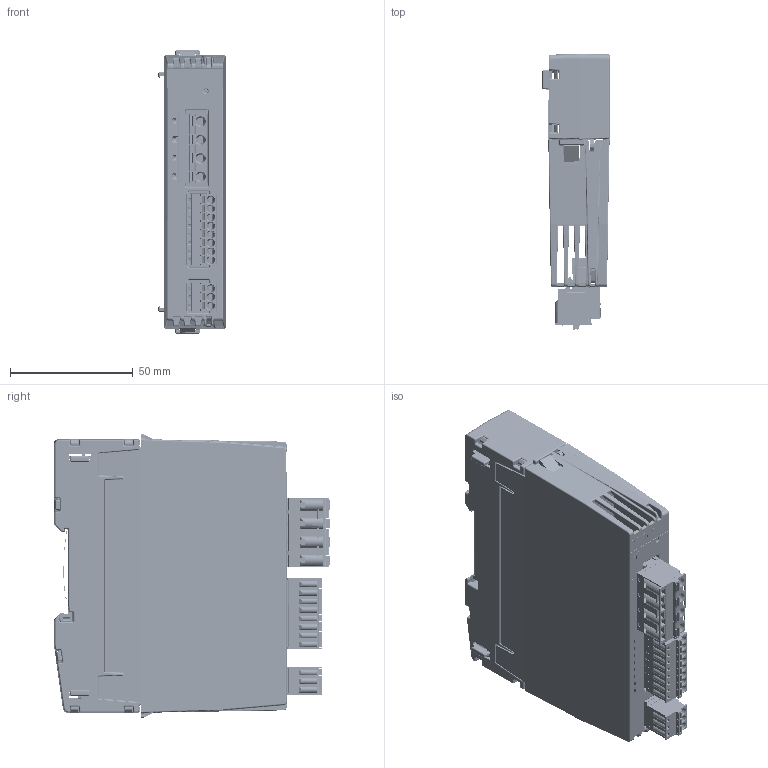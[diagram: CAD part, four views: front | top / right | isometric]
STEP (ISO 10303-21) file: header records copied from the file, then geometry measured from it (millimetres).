
FILE_DESCRIPTION(/* description */ (''),/* implementation_level */ '2;1');
FILE_NAME(/* name */ 'C:\Users\Public\Documents\Autodesk\Inventor 2023\PM04C_Simplified+BackBB21A.stp',/* time_stamp */ '2024-10-18T22:35:58+02:00',/* author */ ('shoma'),/* organization */ (''),/* preprocessor_version */ 'ST-DEVELOPER v19',/* originating_system */ 'Autodesk Inventor 2023',/* authorisation */ '');
FILE_SCHEMA (('AUTOMOTIVE_DESIGN { 1 0 10303 214 3 1 1 }'));
Products named in the file (1): PM04C_Simplified+BackBB21A
Bounding box: 27.4 x 112.6 x 115.5 mm (x, y, z)
Volume: 135794.3 mm3; surface area: 89497.1 mm2
Topology: 7 solids, 42 shells, 8450 faces, 22687 edges, 14281 vertices
Faces by surface type: plane 5475, cylinder 2072, bspline 555, sphere 163, cone 139, torus 46
Full cylindrical faces by diameter (mm): 0.296 x2, 0.3 x36, 0.434 x1, 0.457 x2, 0.7 x36, 0.8 x6, 0.85 x24, 0.9 x8, 1.17 x11, 1.25 x11, 1.3 x11, 1.4 x8, 1.5 x4, 1.6 x9, 2.35 x2, 2.5 x1, 2.8 x3, 3 x5, 3.1 x11, 3.25 x2, 4 x4
Entity records: 286675 total; most frequent: CARTESIAN_POINT 66586, ORIENTED_EDGE 45028, DIRECTION 42677, EDGE_CURVE 22514, LINE 16487, VECTOR 16487, VERTEX_POINT 14277, AXIS2_PLACEMENT_3D 13095
